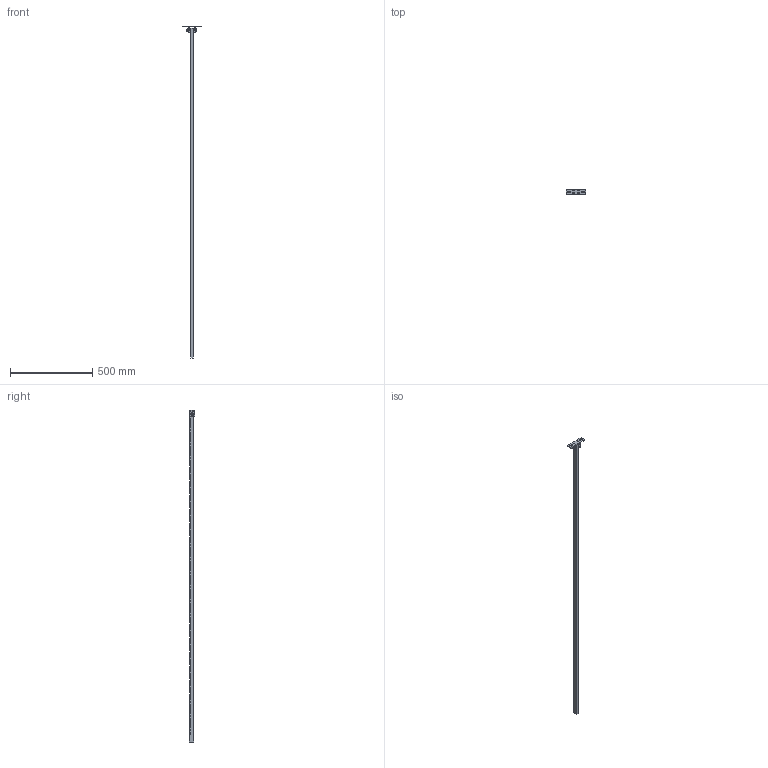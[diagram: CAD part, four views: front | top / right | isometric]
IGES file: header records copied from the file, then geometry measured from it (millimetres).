
Global section: file name: 61515_1297_1865; native system: Autodesk Inventor 2022; preprocessor: unknown; author: Nesvadba; date: 20240224.154816; units: millimetre
Bounding box: 120 x 32 x 2013 mm (x, y, z)
Volume: 771662.4 mm3; surface area: 202688 mm2
Topology: 4 solids, 4 shells, 1335 faces, 3965 edges, 2638 vertices
Faces by surface type: bspline 1335
